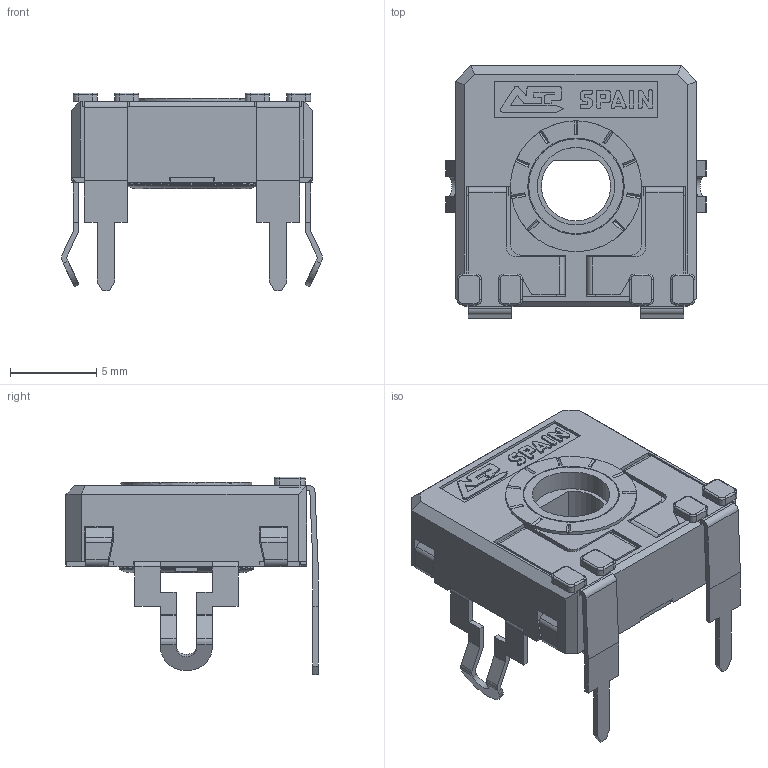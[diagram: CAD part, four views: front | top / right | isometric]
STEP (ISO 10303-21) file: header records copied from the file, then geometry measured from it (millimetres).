
FILE_DESCRIPTION(/* description */ (''),/* implementation_level */ '2;1');
FILE_NAME(/* name */ 'C:\Users\CEM\Desktop\ENVIAR\TRANSICION 3D CATALOGOS\RS14FVD7,5 RT-RO.stp',/* time_stamp */ '2025-12-10T10:41:06+01:00',/* author */ ('CEM'),/* organization */ (''),/* preprocessor_version */ 'ST-DEVELOPER v16.13',/* originating_system */ 'Autodesk Inventor 2018',/* authorisation */ '');
FILE_SCHEMA (('AUTOMOTIVE_DESIGN { 1 0 10303 214 3 1 1 }'));
Length unit declared in the file: millimetre
Products named in the file (1): CARCASA CA14 PGA
Bounding box: 15.16 x 14.65 x 11.5 mm (x, y, z)
Volume: 531.4 mm3; surface area: 1536.6 mm2
Topology: 1 solids, 1 shells, 727 faces, 2058 edges, 1324 vertices
Faces by surface type: plane 530, cylinder 160, torus 23, bspline 8, cone 6
Full cylindrical faces by diameter (mm): 4.5 x1, 5.5 x1, 5.6 x1, 5.752 x1, 6.8 x1, 7.6 x1
Entity records: 23683 total; most frequent: CARTESIAN_POINT 4304, ORIENTED_EDGE 4088, DIRECTION 3866, EDGE_CURVE 2044, LINE 1606, VECTOR 1606, VERTEX_POINT 1320, AXIS2_PLACEMENT_3D 1130
